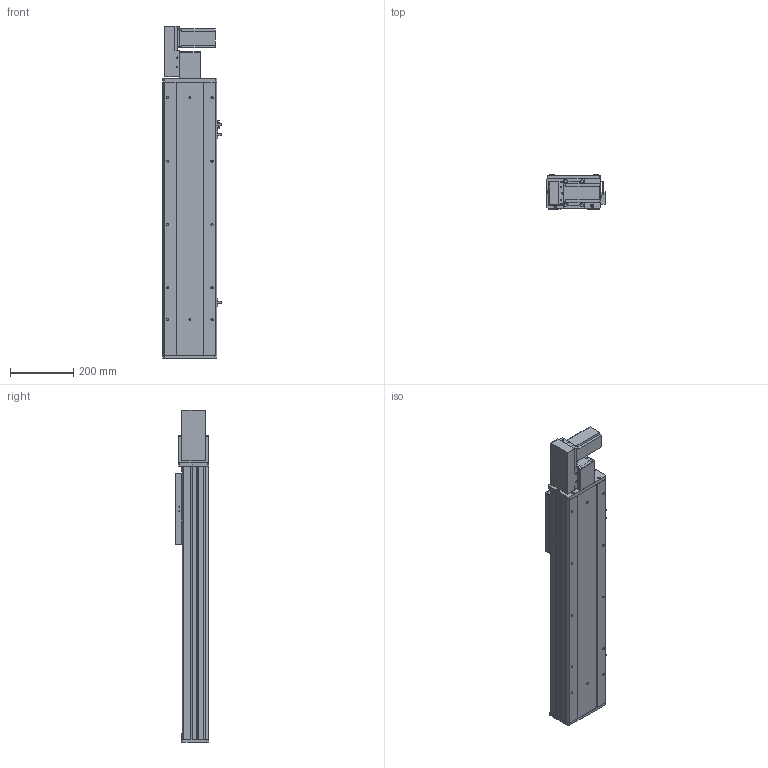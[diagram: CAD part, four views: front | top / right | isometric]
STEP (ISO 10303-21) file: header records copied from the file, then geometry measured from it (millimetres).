
FILE_DESCRIPTION (( 'STEP AP203' ), '1' );
FILE_NAME ('Y170CB-D105-S550-BL-P400W.STEP', '2020-02-20T01:08:11', ( '微软用户' ), ( '微软中国' ), 'SwSTEP 2.0', 'SolidWorks 2017', '' );
FILE_SCHEMA (( 'CONFIG_CONTROL_DESIGN' ));
Length unit declared in the file: millimetre
Products named in the file (18): 70C--詩湍揤踡え-; 17B-耜蚾蟀諉啣----; Y170CB-D105-S550-BL-P400W; 70CB--耜裔; 70C-雄赽釱-奻-; 0B-萇儂楊擘啣; 0C--雄赽釱俋欶-170; san松下电机400不带刹车----; 70CB-詩湍--; Y70俋欶BR----; Y100-135俋离換覜ん--; 70CB-掛极-; Y170CB-陔俋离換覜結え---; --70CB --喘謫眊楊擘啣-; 70B喘謫眊----; 70CB-耜裔啣-; B-源倛裔啣; Y1埴倛裔
Assembly tree (21 placements, depth 2):
  Y170CB-D105-S550-BL-P400W
    B-源倛裔啣
    17B-耜蚾蟀諉啣----
    0B-萇儂楊擘啣
    san松下电机400不带刹车----
    Y70俋欶BR----
    70CB-掛极-
    --70CB --喘謫眊楊擘啣-
    70CB-耜裔啣-  x2
    70C--詩湍揤踡え-  x2
    70CB--耜裔
    70C-雄赽釱-奻-
    0C--雄赽釱俋欶-170
    70CB-詩湍--
    Y100-135俋离換覜ん--  x3
    Y170CB-陔俋离換覜結え---
    70B喘謫眊----
    Y1埴倛裔
Bounding box: 183.5 x 107 x 1047 mm (x, y, z)
Volume: 4765510.3 mm3; surface area: 1696159.8 mm2
Topology: 21 solids, 21 shells, 991 faces, 2645 edges, 1754 vertices
Faces by surface type: cylinder 503, plane 464, cone 24
Entity records: 31444 total; most frequent: CARTESIAN_POINT 5736, DIRECTION 5110, ORIENTED_EDGE 4772, EDGE_CURVE 2386, AXIS2_PLACEMENT_3D 1864, VERTEX_POINT 1584, LINE 1382, VECTOR 1382
